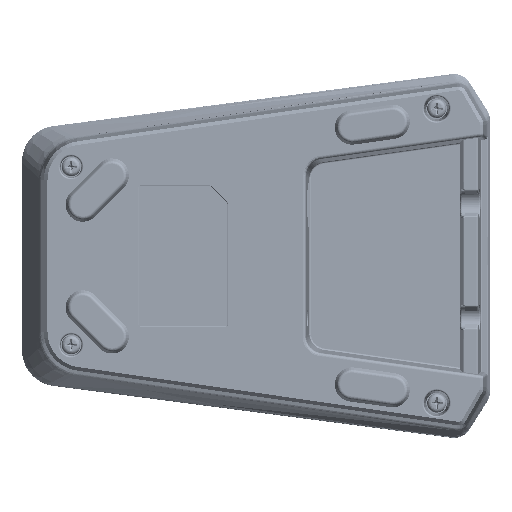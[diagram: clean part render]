
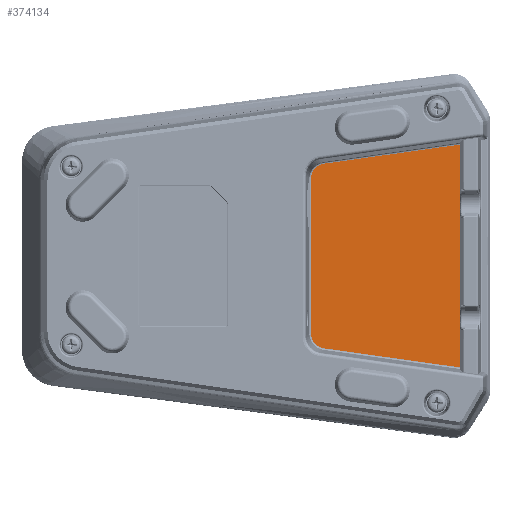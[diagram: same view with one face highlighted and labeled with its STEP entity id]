
A CAD part, front view. The second image highlights one B-rep face of the part: STEP entity #374134.
In plain terms, the highlighted planar face has unit normal (0, -1, 0).
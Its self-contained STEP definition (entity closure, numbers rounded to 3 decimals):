
#347408=DIRECTION('',(0.99,0.,-0.139));
#347409=VECTOR('',#347408,40.058);
#347410=CARTESIAN_POINT('',(112.18,-88.2,-26.955));
#347411=LINE('',#347410,#347409);
#347415=CARTESIAN_POINT('',(108.311,-88.2,-22.505));
#347416=CARTESIAN_POINT('',(108.311,-88.2,-22.9));
#347417=CARTESIAN_POINT('',(108.413,-88.2,-23.629));
#347418=CARTESIAN_POINT('',(108.761,-88.2,-24.535));
#347419=CARTESIAN_POINT('',(109.223,-88.2,-25.258));
#347420=CARTESIAN_POINT('',(109.736,-88.2,-25.814));
#347421=CARTESIAN_POINT('',(110.268,-88.2,-26.233));
#347422=CARTESIAN_POINT('',(110.813,-88.2,-26.55));
#347423=CARTESIAN_POINT('',(111.43,-88.2,-26.803));
#347424=CARTESIAN_POINT('',(111.918,-88.2,-26.918));
#347425=CARTESIAN_POINT('',(112.18,-88.2,-26.955));
#347430=DIRECTION('',(0.,0.,-1.));
#347431=VECTOR('',#347430,45.01);
#347432=CARTESIAN_POINT('',(108.311,-88.2,22.505));
#347433=LINE('',#347432,#347431);
#347437=CARTESIAN_POINT('',(112.18,-88.2,26.955));
#347438=CARTESIAN_POINT('',(111.789,-88.2,26.9));
#347439=CARTESIAN_POINT('',(111.082,-88.2,26.698));
#347440=CARTESIAN_POINT('',(110.233,-88.2,26.228));
#347441=CARTESIAN_POINT('',(109.581,-88.2,25.67));
#347442=CARTESIAN_POINT('',(109.102,-88.2,25.085));
#347443=CARTESIAN_POINT('',(108.76,-88.2,24.499));
#347444=CARTESIAN_POINT('',(108.522,-88.2,23.915));
#347445=CARTESIAN_POINT('',(108.358,-88.2,23.269));
#347446=CARTESIAN_POINT('',(108.311,-88.2,22.77));
#347447=CARTESIAN_POINT('',(108.311,-88.2,22.505));
#347452=DIRECTION('',(-0.99,0.,-0.139));
#347453=VECTOR('',#347452,40.058);
#347454=CARTESIAN_POINT('',(151.85,-88.2,32.523));
#347455=LINE('',#347454,#347453);
#347459=DIRECTION('',(0.,0.,1.));
#347460=VECTOR('',#347459,65.045);
#347461=CARTESIAN_POINT('',(151.85,-88.2,-32.523));
#347462=LINE('',#347461,#347460);
#347532=CARTESIAN_POINT('',(151.85,-88.2,-32.523));
#347545=CARTESIAN_POINT('',(151.85,-88.2,32.523));
#372663=VERTEX_POINT('',#347532);
#372667=CARTESIAN_POINT('',(112.18,-88.2,-26.955));
#372668=VERTEX_POINT('',#372667);
#372670=VERTEX_POINT('',#347415);
#372673=CARTESIAN_POINT('',(108.311,-88.2,22.505));
#372674=VERTEX_POINT('',#372673);
#372676=VERTEX_POINT('',#347437);
#372678=VERTEX_POINT('',#347545);
#374115=CARTESIAN_POINT('',(175.,-88.2,-35.));
#374116=DIRECTION('',(0.,1.,0.));
#374117=DIRECTION('',(0.,0.,1.));
#374118=AXIS2_PLACEMENT_3D('',#374115,#374116,#374117);
#374119=PLANE('',#374118);
#374121=ORIENTED_EDGE('',*,*,#374120,.F.);
#374123=ORIENTED_EDGE('',*,*,#374122,.F.);
#374125=ORIENTED_EDGE('',*,*,#374124,.F.);
#374127=ORIENTED_EDGE('',*,*,#374126,.F.);
#374129=ORIENTED_EDGE('',*,*,#374128,.F.);
#374131=ORIENTED_EDGE('',*,*,#374130,.F.);
#374132=EDGE_LOOP('',(#374121,#374123,#374125,#374127,#374129,#374131));
#374133=FACE_OUTER_BOUND('',#374132,.F.);
#374134=ADVANCED_FACE('',(#374133),#374119,.F.);
#347426=B_SPLINE_CURVE_WITH_KNOTS('',3,(#347415,#347416,#347417,#347418,#347419,
#347420,#347421,#347422,#347423,#347424,#347425),.UNSPECIFIED.,.F.,.F.,(4,1,1,1,
1,1,1,1,4),(0.,0.125,0.25,0.375,0.5,0.625,0.75,0.875,1.),
.UNSPECIFIED.);
#347448=B_SPLINE_CURVE_WITH_KNOTS('',3,(#347437,#347438,#347439,#347440,#347441,
#347442,#347443,#347444,#347445,#347446,#347447),.UNSPECIFIED.,.F.,.F.,(4,1,1,1,
1,1,1,1,4),(0.,0.125,0.25,0.375,0.5,0.625,0.75,0.875,1.),
.UNSPECIFIED.);
#374120=EDGE_CURVE('',#372668,#372663,#347411,.T.);
#374122=EDGE_CURVE('',#372670,#372668,#347426,.T.);
#374124=EDGE_CURVE('',#372674,#372670,#347433,.T.);
#374126=EDGE_CURVE('',#372676,#372674,#347448,.T.);
#374128=EDGE_CURVE('',#372678,#372676,#347455,.T.);
#374130=EDGE_CURVE('',#372663,#372678,#347462,.T.);
